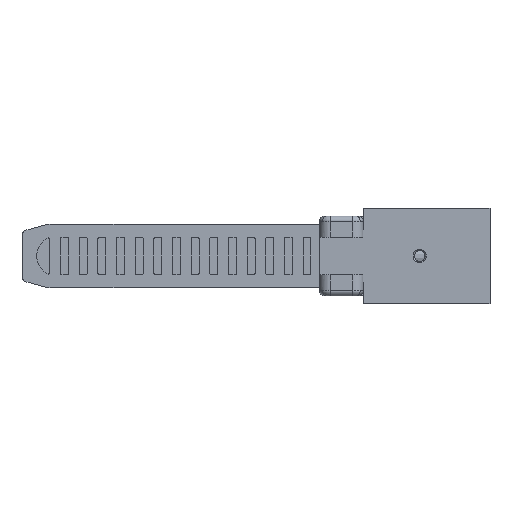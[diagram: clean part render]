
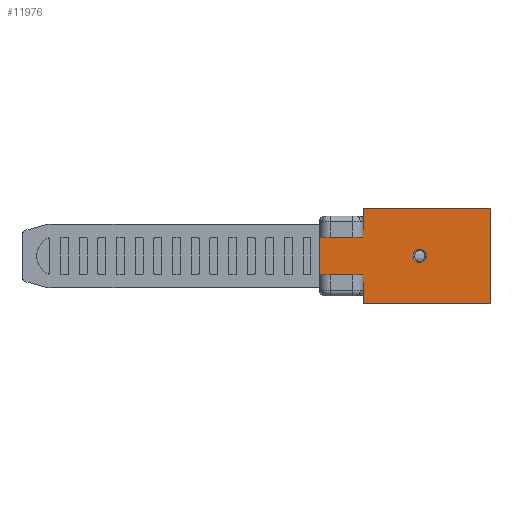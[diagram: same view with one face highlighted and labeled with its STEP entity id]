
A CAD part, front view. The second image highlights one B-rep face of the part: STEP entity #11976.
In plain terms, the highlighted planar face has unit normal (0, -1, 0).
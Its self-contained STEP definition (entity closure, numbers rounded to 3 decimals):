
#219 = EDGE_CURVE ( 'NONE', #797, #12825, #17811, .T. ) ;
#252 = DIRECTION ( 'NONE',  ( 0., 0., -1. ) ) ;
#356 = ORIENTED_EDGE ( 'NONE', *, *, #16096, .T. ) ;
#460 = DIRECTION ( 'NONE',  ( 1., 0., 0. ) ) ;
#531 = EDGE_CURVE ( 'NONE', #18363, #6415, #19972, .T. ) ;
#730 = LINE ( 'NONE', #11063, #7492 ) ;
#797 = VERTEX_POINT ( 'NONE', #5545 ) ;
#800 = CARTESIAN_POINT ( 'NONE',  ( -1.3, -5., -9. ) ) ;
#825 = VERTEX_POINT ( 'NONE', #13872 ) ;
#880 = PLANE ( 'NONE',  #17054 ) ;
#1049 = VECTOR ( 'NONE', #1283, 1000. ) ;
#1283 = DIRECTION ( 'NONE',  ( 0., 0., -1. ) ) ;
#1705 = DIRECTION ( 'NONE',  ( 0., 0., -1. ) ) ;
#2589 = VERTEX_POINT ( 'NONE', #10710 ) ;
#2767 = ORIENTED_EDGE ( 'NONE', *, *, #11512, .F. ) ;
#2993 = CARTESIAN_POINT ( 'NONE',  ( -9.5, -5., 9. ) ) ;
#3143 = ORIENTED_EDGE ( 'NONE', *, *, #8502, .F. ) ;
#3255 = VERTEX_POINT ( 'NONE', #20502 ) ;
#3729 = EDGE_CURVE ( 'NONE', #3255, #2589, #5469, .T. ) ;
#4447 = VERTEX_POINT ( 'NONE', #14670 ) ;
#4540 = AXIS2_PLACEMENT_3D ( 'NONE', #5725, #5449, #1705 ) ;
#4666 = AXIS2_PLACEMENT_3D ( 'NONE', #5229, #16903, #6910 ) ;
#4747 = DIRECTION ( 'NONE',  ( 0., 0., -1. ) ) ;
#5076 = EDGE_CURVE ( 'NONE', #825, #5615, #21285, .T. ) ;
#5229 = CARTESIAN_POINT ( 'NONE',  ( 9.3, -5., 0. ) ) ;
#5389 = FACE_OUTER_BOUND ( 'NONE', #18537, .T. ) ;
#5449 = DIRECTION ( 'NONE',  ( 0., -1., 0. ) ) ;
#5469 = LINE ( 'NONE', #11233, #1049 ) ;
#5476 = ORIENTED_EDGE ( 'NONE', *, *, #219, .F. ) ;
#5536 = EDGE_LOOP ( 'NONE', ( #5476, #11298 ) ) ;
#5545 = CARTESIAN_POINT ( 'NONE',  ( 9.3, -5., -1.25 ) ) ;
#5615 = VERTEX_POINT ( 'NONE', #12761 ) ;
#5725 = CARTESIAN_POINT ( 'NONE',  ( 9.3, -5., 0. ) ) ;
#6315 = CARTESIAN_POINT ( 'NONE',  ( -9.5, -5., 9. ) ) ;
#6415 = VERTEX_POINT ( 'NONE', #11337 ) ;
#6521 = LINE ( 'NONE', #17025, #14906 ) ;
#6910 = DIRECTION ( 'NONE',  ( 0., 0., -1. ) ) ;
#7097 = ORIENTED_EDGE ( 'NONE', *, *, #19775, .F. ) ;
#7393 = CARTESIAN_POINT ( 'NONE',  ( -1.3, -5., 9. ) ) ;
#7492 = VECTOR ( 'NONE', #12760, 1000. ) ;
#7987 = LINE ( 'NONE', #2993, #15814 ) ;
#8006 = DIRECTION ( 'NONE',  ( 1., 0., 0. ) ) ;
#8008 = DIRECTION ( 'NONE',  ( 0., 0., 1. ) ) ;
#8502 = EDGE_CURVE ( 'NONE', #18363, #5615, #12155, .T. ) ;
#10649 = LINE ( 'NONE', #10758, #12753 ) ;
#10710 = CARTESIAN_POINT ( 'NONE',  ( 22.5, -5., -9. ) ) ;
#10758 = CARTESIAN_POINT ( 'NONE',  ( -9.5, -5., -4.95 ) ) ;
#10778 = EDGE_CURVE ( 'NONE', #4447, #15950, #6521, .T. ) ;
#10913 = ORIENTED_EDGE ( 'NONE', *, *, #10778, .T. ) ;
#11063 = CARTESIAN_POINT ( 'NONE',  ( -9.5, -5., -9. ) ) ;
#11233 = CARTESIAN_POINT ( 'NONE',  ( 22.5, -5., 9. ) ) ;
#11298 = ORIENTED_EDGE ( 'NONE', *, *, #18397, .F. ) ;
#11337 = CARTESIAN_POINT ( 'NONE',  ( -9.5, -5., -4.95 ) ) ;
#11512 = EDGE_CURVE ( 'NONE', #4447, #6415, #10649, .T. ) ;
#11605 = VECTOR ( 'NONE', #4747, 1000. ) ;
#11976 = ADVANCED_FACE ( 'NONE', ( #18725, #5389 ), #880, .F. ) ;
#12060 = CARTESIAN_POINT ( 'NONE',  ( -9.5, -5., 9. ) ) ;
#12155 = LINE ( 'NONE', #18846, #21035 ) ;
#12161 = ORIENTED_EDGE ( 'NONE', *, *, #3729, .F. ) ;
#12753 = VECTOR ( 'NONE', #20783, 1000. ) ;
#12760 = DIRECTION ( 'NONE',  ( 1., 0., 0. ) ) ;
#12761 = CARTESIAN_POINT ( 'NONE',  ( -1.3, -5., 4.95 ) ) ;
#12825 = VERTEX_POINT ( 'NONE', #17009 ) ;
#13395 = CARTESIAN_POINT ( 'NONE',  ( -9.5, -5., 4.95 ) ) ;
#13872 = CARTESIAN_POINT ( 'NONE',  ( -1.3, -5., 9. ) ) ;
#14025 = DIRECTION ( 'NONE',  ( 0., 0., -1. ) ) ;
#14086 = CIRCLE ( 'NONE', #4666, 1.25 ) ;
#14670 = CARTESIAN_POINT ( 'NONE',  ( -1.3, -5., -4.95 ) ) ;
#14906 = VECTOR ( 'NONE', #252, 1000. ) ;
#15525 = ORIENTED_EDGE ( 'NONE', *, *, #531, .T. ) ;
#15814 = VECTOR ( 'NONE', #8006, 1000. ) ;
#15950 = VERTEX_POINT ( 'NONE', #800 ) ;
#16096 = EDGE_CURVE ( 'NONE', #15950, #2589, #730, .T. ) ;
#16903 = DIRECTION ( 'NONE',  ( 0., -1., 0. ) ) ;
#17009 = CARTESIAN_POINT ( 'NONE',  ( 9.3, -5., 1.25 ) ) ;
#17025 = CARTESIAN_POINT ( 'NONE',  ( -1.3, -5., 9. ) ) ;
#17054 = AXIS2_PLACEMENT_3D ( 'NONE', #6315, #17978, #8008 ) ;
#17593 = ORIENTED_EDGE ( 'NONE', *, *, #5076, .T. ) ;
#17811 = CIRCLE ( 'NONE', #4540, 1.25 ) ;
#17978 = DIRECTION ( 'NONE',  ( 0., 1., 0. ) ) ;
#18363 = VERTEX_POINT ( 'NONE', #13395 ) ;
#18397 = EDGE_CURVE ( 'NONE', #12825, #797, #14086, .T. ) ;
#18537 = EDGE_LOOP ( 'NONE', ( #2767, #10913, #356, #12161, #7097, #17593, #3143, #15525 ) ) ;
#18725 = FACE_BOUND ( 'NONE', #5536, .T. ) ;
#18846 = CARTESIAN_POINT ( 'NONE',  ( -9.5, -5., 4.95 ) ) ;
#19775 = EDGE_CURVE ( 'NONE', #825, #3255, #7987, .T. ) ;
#19972 = LINE ( 'NONE', #12060, #11605 ) ;
#20502 = CARTESIAN_POINT ( 'NONE',  ( 22.5, -5., 9. ) ) ;
#20752 = VECTOR ( 'NONE', #14025, 1000. ) ;
#20783 = DIRECTION ( 'NONE',  ( -1., 0., 0. ) ) ;
#21035 = VECTOR ( 'NONE', #460, 1000. ) ;
#21285 = LINE ( 'NONE', #7393, #20752 ) ;
